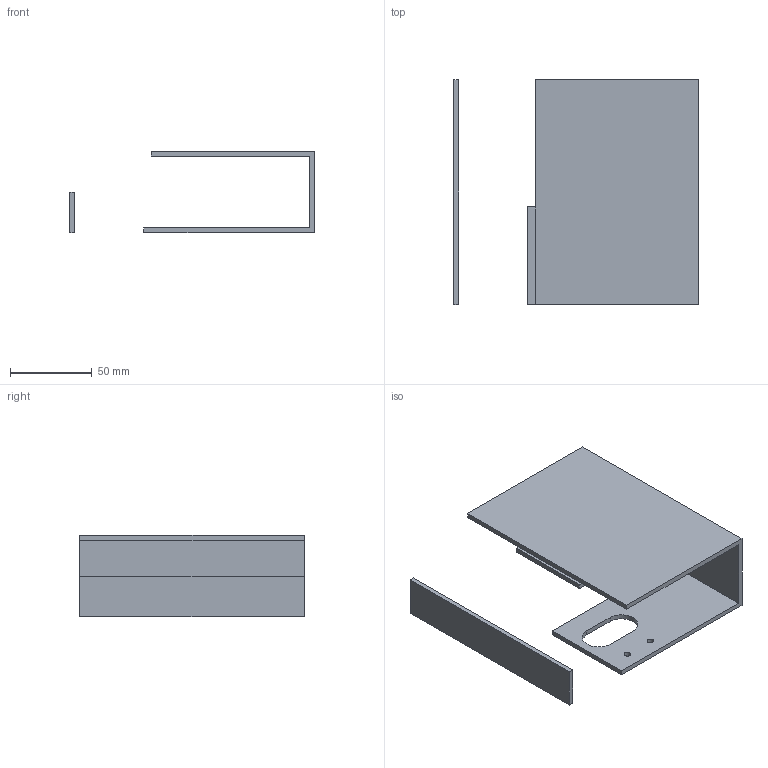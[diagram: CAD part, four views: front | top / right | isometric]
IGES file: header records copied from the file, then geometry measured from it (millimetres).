
Global section: file name: Cable Carrier Plate v7; native system: unknown; preprocessor: unknown; author: unknown; organization: unknown; date: 20170625.164001; units: millimetre
Bounding box: 150 x 138 x 50 mm (x, y, z)
Volume: 95421.2 mm3; surface area: 67917.2 mm2
Topology: 2 solids, 2 shells, 32 faces, 84 edges, 56 vertices
Faces by surface type: bspline 32
